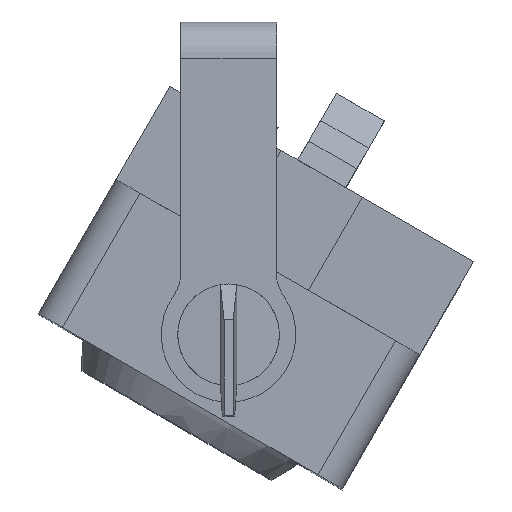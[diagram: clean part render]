
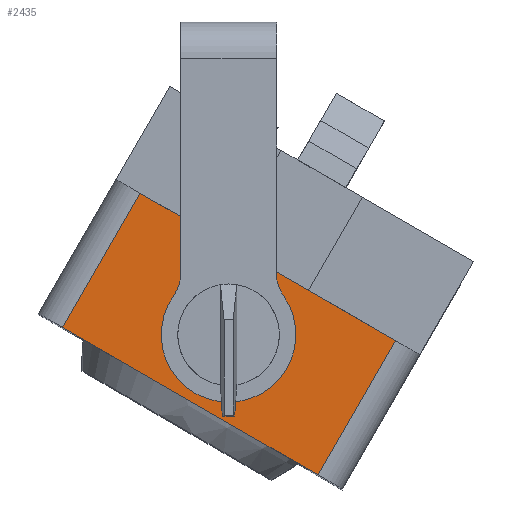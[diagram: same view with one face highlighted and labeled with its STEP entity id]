
A CAD part, top view. The second image highlights one B-rep face of the part: STEP entity #2435.
In plain terms, the highlighted planar face has unit normal (0, 0, 1).
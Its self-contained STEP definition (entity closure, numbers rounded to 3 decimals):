
#87=FACE_BOUND('',#432,.T.);
#152=PLANE('',#2664);
#281=FACE_OUTER_BOUND('',#431,.T.);
#431=EDGE_LOOP('',(#2137,#2138,#2139,#2140));
#432=EDGE_LOOP('',(#2141));
#646=LINE('',#4815,#880);
#668=LINE('',#4886,#902);
#669=LINE('',#4889,#903);
#670=LINE('',#4890,#904);
#880=VECTOR('',#3168,10.);
#902=VECTOR('',#3252,10.);
#903=VECTOR('',#3255,10.);
#904=VECTOR('',#3256,10.);
#965=CIRCLE('',#2607,7.5);
#1147=VERTEX_POINT('',#4011);
#1205=VERTEX_POINT('',#4812);
#1206=VERTEX_POINT('',#4814);
#1224=VERTEX_POINT('',#4883);
#1225=VERTEX_POINT('',#4888);
#1444=EDGE_CURVE('',#1147,#1147,#965,.T.);
#1513=EDGE_CURVE('',#1205,#1206,#646,.T.);
#1553=EDGE_CURVE('',#1224,#1206,#668,.T.);
#1554=EDGE_CURVE('',#1224,#1225,#669,.T.);
#1555=EDGE_CURVE('',#1225,#1205,#670,.T.);
#2137=ORIENTED_EDGE('',*,*,#1554,.F.);
#2138=ORIENTED_EDGE('',*,*,#1553,.T.);
#2139=ORIENTED_EDGE('',*,*,#1513,.F.);
#2140=ORIENTED_EDGE('',*,*,#1555,.F.);
#2141=ORIENTED_EDGE('',*,*,#1444,.T.);
#2435=ADVANCED_FACE('',(#281,#87),#152,.T.);
#2607=AXIS2_PLACEMENT_3D('',#4012,#3078,#3079);
#2664=AXIS2_PLACEMENT_3D('',#4887,#3253,#3254);
#3078=DIRECTION('center_axis',(0.,0.,-1.));
#3079=DIRECTION('ref_axis',(1.,0.,0.));
#3168=DIRECTION('',(0.,-1.,0.));
#3252=DIRECTION('',(1.,0.,0.));
#3253=DIRECTION('center_axis',(0.,0.,1.));
#3254=DIRECTION('ref_axis',(0.,-1.,0.));
#3255=DIRECTION('',(0.,1.,0.));
#3256=DIRECTION('',(1.,0.,0.));
#4011=CARTESIAN_POINT('',(-12.3,0.,190.));
#4012=CARTESIAN_POINT('Origin',(-4.8,0.,190.));
#4812=CARTESIAN_POINT('',(37.7,80.,190.));
#4814=CARTESIAN_POINT('',(37.7,-80.,190.));
#4815=CARTESIAN_POINT('',(37.7,-80.,190.));
#4883=CARTESIAN_POINT('',(-46.3,-80.,190.));
#4886=CARTESIAN_POINT('',(-46.3,-80.,190.));
#4887=CARTESIAN_POINT('Origin',(-46.3,80.,190.));
#4888=CARTESIAN_POINT('',(-46.3,80.,190.));
#4889=CARTESIAN_POINT('',(-46.3,-80.,190.));
#4890=CARTESIAN_POINT('',(-46.3,80.,190.));
